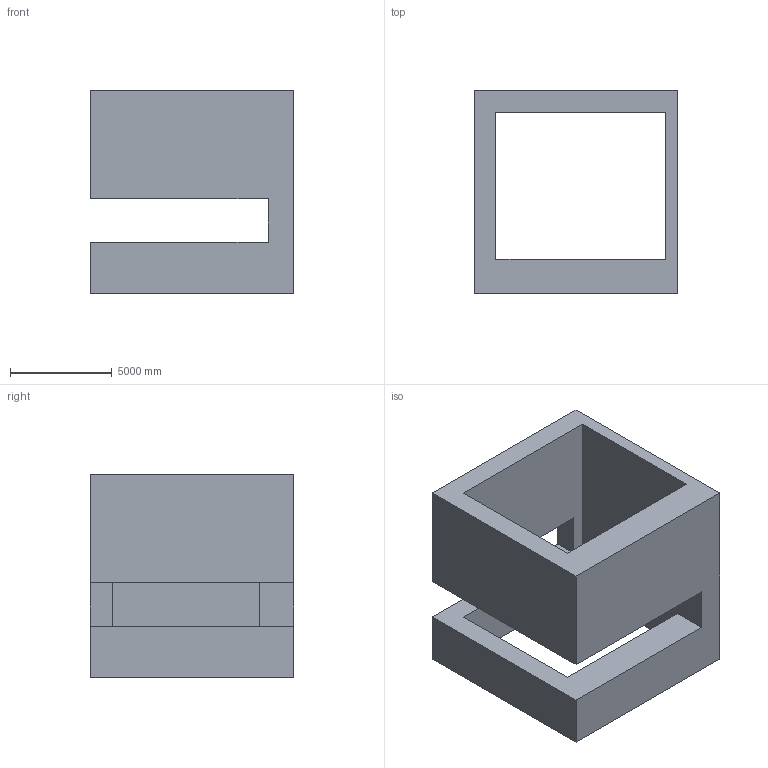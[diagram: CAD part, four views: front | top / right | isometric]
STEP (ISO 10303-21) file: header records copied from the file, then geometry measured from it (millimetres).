
FILE_DESCRIPTION (( 'STEP AP203' ), '1' );
FILE_NAME ('89.STEP', '2022-07-28T13:35:18', ( 'user' ), ( '' ), 'SwSTEP 2.0', 'SolidWorks 2021', '' );
FILE_SCHEMA (( 'CONFIG_CONTROL_DESIGN' ));
Length unit declared in the file: centimetre
Products named in the file (1): 89
Bounding box: 10000 x 10000 x 10000 mm (x, y, z)
Volume: 329146240843.3 mm3; surface area: 753352454.7 mm2
Topology: 1 solids, 1 shells, 16 faces, 48 edges, 32 vertices
Faces by surface type: plane 16
Entity records: 617 total; most frequent: CARTESIAN_POINT 97, ORIENTED_EDGE 96, DIRECTION 82, EDGE_CURVE 48, LINE 48, VECTOR 48, VERTEX_POINT 32, EDGE_LOOP 18
